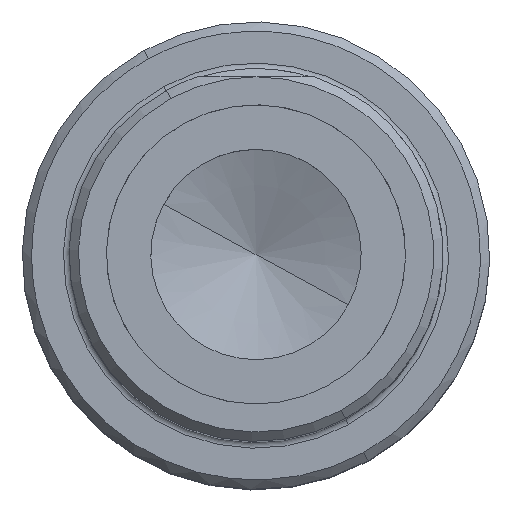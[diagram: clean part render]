
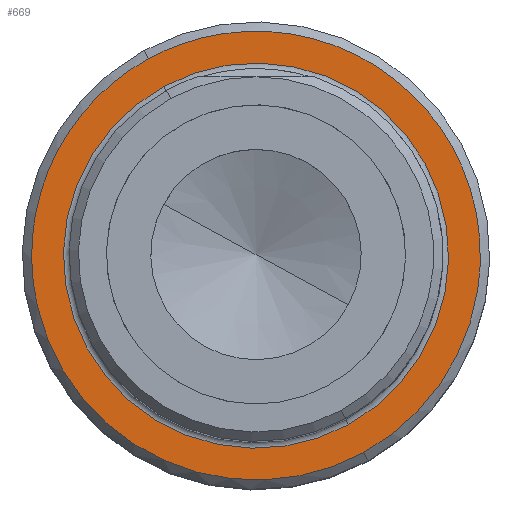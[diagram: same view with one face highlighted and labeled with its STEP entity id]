
A CAD part, top view. The second image highlights one B-rep face of the part: STEP entity #669.
In plain terms, the highlighted planar face has unit normal (0, 0, 1).
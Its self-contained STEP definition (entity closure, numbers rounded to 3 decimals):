
#566=AXIS2_PLACEMENT_3D('Circle Axis2P3D',#564,#565,$) ;
#578=AXIS2_PLACEMENT_3D('Circle Axis2P3D',#576,#577,$) ;
#591=AXIS2_PLACEMENT_3D('Plane Axis2P3D',#588,#589,#590) ;
#554=CARTESIAN_POINT('Vertex',(-9.876,18.078,-75.)) ;
#561=CARTESIAN_POINT('Vertex',(9.876,-18.078,-75.)) ;
#564=CARTESIAN_POINT('Axis2P3D Location',(0.,0.,-75.)) ;
#576=CARTESIAN_POINT('Axis2P3D Location',(0.,0.,-75.)) ;
#588=CARTESIAN_POINT('Axis2P3D Location',(0.,20.6,-75.)) ;
#594=CARTESIAN_POINT('Control Point',(11.506,-21.062,-75.)) ;
#595=CARTESIAN_POINT('Control Point',(9.538,-22.137,-75.)) ;
#596=CARTESIAN_POINT('Control Point',(7.445,-22.982,-75.)) ;
#597=CARTESIAN_POINT('Control Point',(5.262,-23.578,-75.)) ;
#598=CARTESIAN_POINT('Control Point',(0.797,-24.249,-75.)) ;
#599=CARTESIAN_POINT('Control Point',(-3.703,-23.873,-75.)) ;
#600=CARTESIAN_POINT('Control Point',(-5.92,-23.421,-75.)) ;
#601=CARTESIAN_POINT('Control Point',(-10.209,-22.009,-75.)) ;
#602=CARTESIAN_POINT('Control Point',(-14.057,-19.647,-75.)) ;
#603=CARTESIAN_POINT('Control Point',(-15.834,-18.245,-75.)) ;
#604=CARTESIAN_POINT('Control Point',(-18.313,-15.767,-75.)) ;
#605=CARTESIAN_POINT('Control Point',(-20.297,-12.897,-75.)) ;
#606=CARTESIAN_POINT('Control Point',(-20.936,-11.832,-75.)) ;
#607=CARTESIAN_POINT('Control Point',(-22.214,-9.35,-75.)) ;
#608=CARTESIAN_POINT('Control Point',(-23.122,-6.707,-75.)) ;
#609=CARTESIAN_POINT('Control Point',(-23.506,-5.203,-75.)) ;
#610=CARTESIAN_POINT('Control Point',(-23.912,-2.829,-75.)) ;
#611=CARTESIAN_POINT('Control Point',(-24.019,-0.428,-75.)) ;
#612=CARTESIAN_POINT('Control Point',(-24.019,0.428,-75.)) ;
#613=CARTESIAN_POINT('Control Point',(-23.912,2.829,-75.)) ;
#614=CARTESIAN_POINT('Control Point',(-23.506,5.203,-75.)) ;
#615=CARTESIAN_POINT('Control Point',(-23.122,6.707,-75.)) ;
#616=CARTESIAN_POINT('Control Point',(-21.887,10.302,-75.)) ;
#617=CARTESIAN_POINT('Control Point',(-19.968,13.598,-75.)) ;
#618=CARTESIAN_POINT('Control Point',(-18.608,15.407,-75.)) ;
#619=CARTESIAN_POINT('Control Point',(-16.407,17.713,-75.)) ;
#620=CARTESIAN_POINT('Control Point',(-13.873,19.617,-75.)) ;
#621=CARTESIAN_POINT('Control Point',(-13.107,20.137,-75.)) ;
#622=CARTESIAN_POINT('Control Point',(-12.317,20.619,-75.)) ;
#623=CARTESIAN_POINT('Control Point',(-11.506,21.062,-75.)) ;
#624=CARTESIAN_POINT('Vertex',(11.506,-21.062,-75.)) ;
#626=CARTESIAN_POINT('Vertex',(-11.506,21.062,-75.)) ;
#630=CARTESIAN_POINT('Control Point',(11.506,-21.062,-75.)) ;
#631=CARTESIAN_POINT('Control Point',(13.442,-20.005,-75.)) ;
#632=CARTESIAN_POINT('Control Point',(15.256,-18.725,-75.)) ;
#633=CARTESIAN_POINT('Control Point',(16.914,-17.242,-75.)) ;
#634=CARTESIAN_POINT('Control Point',(19.029,-14.857,-75.)) ;
#635=CARTESIAN_POINT('Control Point',(20.717,-12.174,-75.)) ;
#636=CARTESIAN_POINT('Control Point',(21.188,-11.334,-75.)) ;
#637=CARTESIAN_POINT('Control Point',(22.305,-9.086,-75.)) ;
#638=CARTESIAN_POINT('Control Point',(23.122,-6.707,-75.)) ;
#639=CARTESIAN_POINT('Control Point',(23.506,-5.203,-75.)) ;
#640=CARTESIAN_POINT('Control Point',(23.912,-2.829,-75.)) ;
#641=CARTESIAN_POINT('Control Point',(24.019,-0.428,-75.)) ;
#642=CARTESIAN_POINT('Control Point',(24.019,0.428,-75.)) ;
#643=CARTESIAN_POINT('Control Point',(23.912,2.829,-75.)) ;
#644=CARTESIAN_POINT('Control Point',(23.506,5.203,-75.)) ;
#645=CARTESIAN_POINT('Control Point',(23.122,6.707,-75.)) ;
#646=CARTESIAN_POINT('Control Point',(21.887,10.302,-75.)) ;
#647=CARTESIAN_POINT('Control Point',(19.968,13.598,-75.)) ;
#648=CARTESIAN_POINT('Control Point',(18.608,15.407,-75.)) ;
#649=CARTESIAN_POINT('Control Point',(15.49,18.673,-75.)) ;
#650=CARTESIAN_POINT('Control Point',(11.704,21.133,-75.)) ;
#651=CARTESIAN_POINT('Control Point',(9.675,22.136,-75.)) ;
#652=CARTESIAN_POINT('Control Point',(5.421,23.648,-75.)) ;
#653=CARTESIAN_POINT('Control Point',(0.933,24.14,-75.)) ;
#654=CARTESIAN_POINT('Control Point',(-1.33,24.121,-75.)) ;
#655=CARTESIAN_POINT('Control Point',(-4.808,23.682,-75.)) ;
#656=CARTESIAN_POINT('Control Point',(-8.135,22.63,-75.)) ;
#657=CARTESIAN_POINT('Control Point',(-9.293,22.18,-75.)) ;
#658=CARTESIAN_POINT('Control Point',(-10.419,21.656,-75.)) ;
#659=CARTESIAN_POINT('Control Point',(-11.506,21.062,-75.)) ;
#565=DIRECTION('Axis2P3D Direction',(0.,0.,1.)) ;
#577=DIRECTION('Axis2P3D Direction',(0.,0.,1.)) ;
#589=DIRECTION('Axis2P3D Direction',(0.,0.,1.)) ;
#590=DIRECTION('Axis2P3D XDirection',(1.,0.,0.)) ;
#662=ORIENTED_EDGE('',*,*,#628,.F.) ;
#663=ORIENTED_EDGE('',*,*,#660,.T.) ;
#666=ORIENTED_EDGE('',*,*,#568,.F.) ;
#667=ORIENTED_EDGE('',*,*,#580,.F.) ;
#668=FACE_BOUND('',#665,.T.) ;
#669=ADVANCED_FACE('NOCUT',(#664,#668),#592,.T.) ;
#593=B_SPLINE_CURVE_WITH_KNOTS('',5,(#594,#595,#596,#597,#598,#599,#600,#601,#602,#603,#604,#605,#606,#607,#608,#609,#610,#611,#612,#613,#614,#615,#616,#617,#618,#619,#620,#621,#622,#623),.UNSPECIFIED.,.F.,.U.,(6,3,3,3,3,3,3,3,3,6),(0.,16.021,32.043,48.066,56.92,67.967,74.074,85.121,101.142,107.745),.UNSPECIFIED.) ;
#629=B_SPLINE_CURVE_WITH_KNOTS('',5,(#630,#631,#632,#633,#634,#635,#636,#637,#638,#639,#640,#641,#642,#643,#644,#645,#646,#647,#648,#649,#650,#651,#652,#653,#654,#655,#656,#657,#658,#659),.UNSPECIFIED.,.F.,.U.,(6,3,3,3,3,3,3,3,3,6),(0.,15.758,22.624,33.671,39.778,50.825,66.846,82.868,98.891,107.745),.UNSPECIFIED.) ;
#567=CIRCLE('generated circle',#566,20.6) ;
#579=CIRCLE('generated circle',#578,20.6) ;
#568=EDGE_CURVE('',#562,#555,#567,.T.) ;
#580=EDGE_CURVE('',#555,#562,#579,.T.) ;
#628=EDGE_CURVE('',#625,#627,#593,.T.) ;
#660=EDGE_CURVE('',#625,#627,#629,.T.) ;
#661=EDGE_LOOP('',(#662,#663)) ;
#665=EDGE_LOOP('',(#666,#667)) ;
#664=FACE_OUTER_BOUND('',#661,.T.) ;
#592=PLANE('',#591) ;
#555=VERTEX_POINT('',#554) ;
#562=VERTEX_POINT('',#561) ;
#625=VERTEX_POINT('',#624) ;
#627=VERTEX_POINT('',#626) ;
